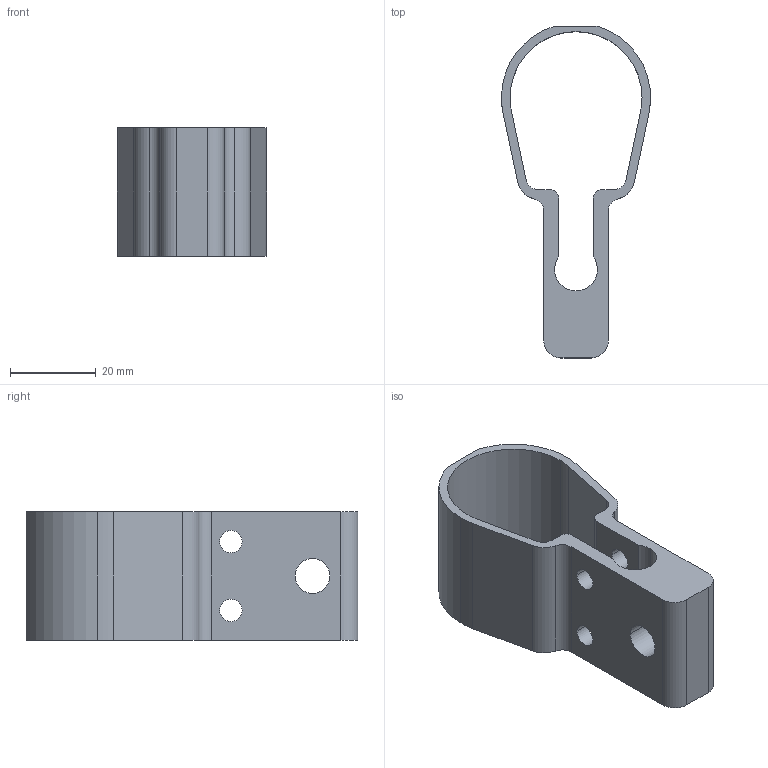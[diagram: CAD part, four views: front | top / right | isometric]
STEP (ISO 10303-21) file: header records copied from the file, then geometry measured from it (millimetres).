
FILE_DESCRIPTION (( 'STEP AP203' ), '1' );
FILE_NAME ('LD3-活動支撐架.STEP', '2016-03-07T09:24:21', ( '' ), ( '' ), 'SwSTEP 2.0', 'SolidWorks 2015', '' );
FILE_SCHEMA (( 'CONFIG_CONTROL_DESIGN' ));
Length unit declared in the file: millimetre
Products named in the file (1): LD3-活動支撐架
Bounding box: 34.68 x 77.2 x 30 mm (x, y, z)
Volume: 16772.1 mm3; surface area: 12023.1 mm2
Topology: 1 solids, 1 shells, 43 faces, 123 edges, 82 vertices
Faces by surface type: cylinder 29, plane 14
Entity records: 1536 total; most frequent: DIRECTION 269, CARTESIAN_POINT 249, ORIENTED_EDGE 246, EDGE_CURVE 123, AXIS2_PLACEMENT_3D 102, VERTEX_POINT 82, VECTOR 65, LINE 65
